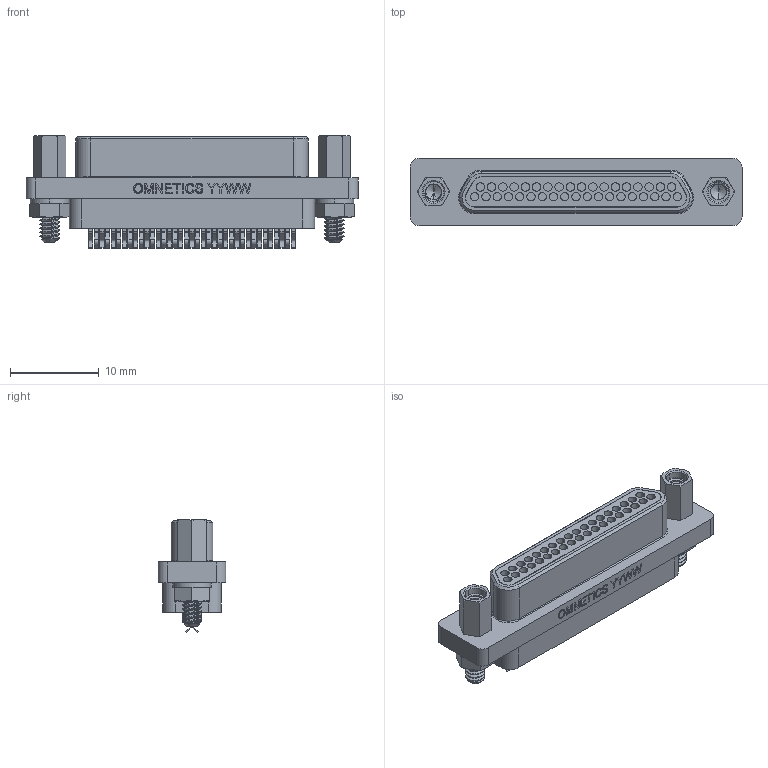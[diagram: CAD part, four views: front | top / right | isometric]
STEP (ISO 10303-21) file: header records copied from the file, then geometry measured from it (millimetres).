
FILE_DESCRIPTION (( 'STEP AP214' ), '1' );
FILE_NAME ('A98062-037 REV A.STEP', '2019-07-01T16:09:32', ( '' ), ( '' ), 'SwSTEP 2.0', 'SolidWorks 2019', '' );
FILE_SCHEMA (( 'AUTOMOTIVE_DESIGN' ));
Length unit declared in the file: inch
Products named in the file (1): A98062-037 REV 1
Bounding box: 37.47 x 7.63 x 12.71 mm (x, y, z)
Volume: 1732.1 mm3; surface area: 3247.9 mm2
Topology: 1 solids, 1 shells, 1334 faces, 3416 edges, 2207 vertices
Faces by surface type: plane 598, cylinder 523, cone 138, bspline 70, torus 5
Entity records: 67200 total; most frequent: CARTESIAN_POINT 17953, ORIENTED_EDGE 6812, DIRECTION 6403, EDGE_CURVE 3406, VERTEX_POINT 2207, AXIS2_PLACEMENT_3D 2197, LINE 2009, VECTOR 2009
